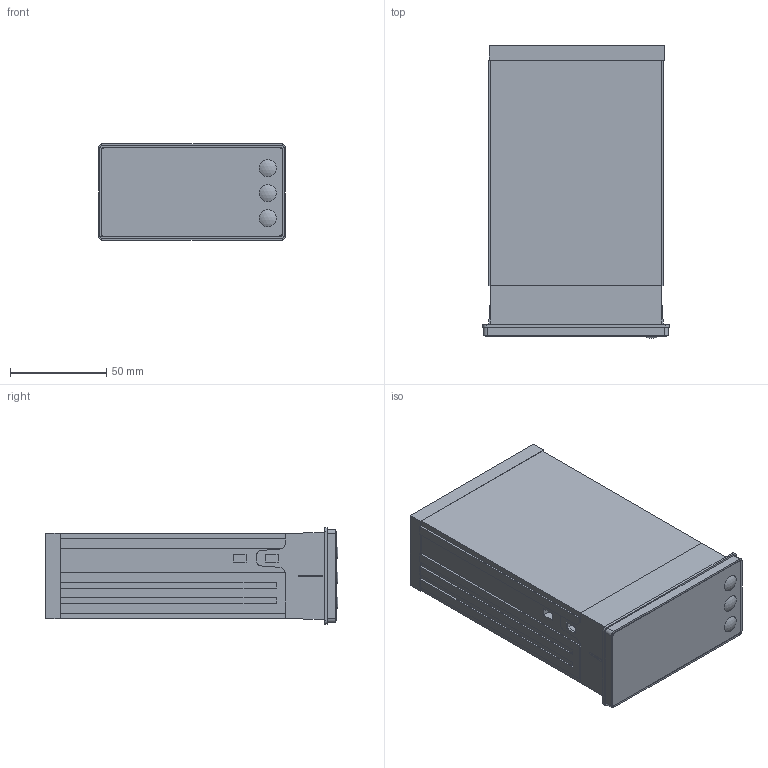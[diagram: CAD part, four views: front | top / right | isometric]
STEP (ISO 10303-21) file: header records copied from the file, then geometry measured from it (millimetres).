
FILE_DESCRIPTION(/* description */ (''),/* implementation_level */ '2;1');
FILE_NAME(/* name */ 'C:\Users\Zambolin\Desktop\S301.stp',/* time_stamp */ '2021-02-11T09:15:52+01:00',/* author */ ('zambolin'),/* organization */ (''),/* preprocessor_version */ 'ST-DEVELOPER v18',/* originating_system */ 'Autodesk Inventor 2020',/* authorisation */ '');
FILE_SCHEMA (('AUTOMOTIVE_DESIGN { 1 0 10303 214 3 1 1 }'));
Length unit declared in the file: millimetre
Products named in the file (27): Sx100; Sx1001; Sx1002; Sx1003; Sx1004; Sx1005; Sx1006; Sx1007; Sx1008; Sx1009; Sx10010; Sx10011; Sx10012; Sx10013; Sx10014; Sx10015; Sx10016; Sx10017; Sx10018; Sx10019; Sx10020; Sx10021; Sx10022; Sx10023; Sx10024; Sx10025; Sx10026
Assembly tree (26 placements, depth 2):
  Sx100
    Sx1001
    Sx1002
    Sx1003
    Sx1004
    Sx1005
    Sx1006
    Sx1007
    Sx1008
    Sx1009
    Sx10010
    Sx10011
    Sx10012
    Sx10013
    Sx10014
    Sx10015
    Sx10016
    Sx10017
    Sx10018
    Sx10019
    Sx10020
    Sx10021
    Sx10022
    Sx10023
    Sx10024
    Sx10025
    Sx10026
Bounding box: 97 x 152.1 x 50 mm (x, y, z)
Volume: 582837.7 mm3; surface area: 101100.7 mm2
Topology: 26 solids, 26 shells, 464 faces, 1165 edges, 787 vertices
Faces by surface type: plane 400, cylinder 61, sphere 3
Full cylindrical faces by diameter (mm): 3.06 x4, 3.6 x20
Entity records: 15085 total; most frequent: CARTESIAN_POINT 2469, DIRECTION 2388, ORIENTED_EDGE 2330, EDGE_CURVE 1165, LINE 976, VECTOR 976, VERTEX_POINT 787, AXIS2_PLACEMENT_3D 706
